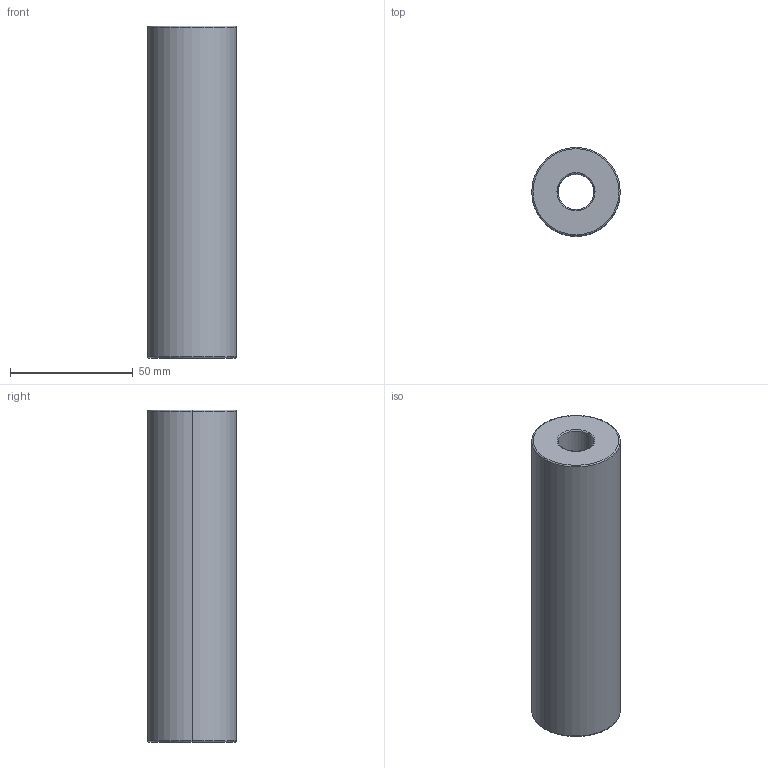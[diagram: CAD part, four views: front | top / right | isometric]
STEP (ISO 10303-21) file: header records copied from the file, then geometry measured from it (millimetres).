
FILE_DESCRIPTION (( 'STEP AP214' ), '1' );
FILE_NAME ('SC16035-R.STEP', '2020-03-23T10:00:02', ( '' ), ( '' ), 'SwSTEP 2.0', 'SolidWorks 2020', '' );
FILE_SCHEMA (( 'AUTOMOTIVE_DESIGN' ));
Length unit declared in the file: millimetre
Products named in the file (1): SC16035-R
Bounding box: 36 x 36 x 135 mm (x, y, z)
Volume: 115103.7 mm3; surface area: 23055.2 mm2
Topology: 1 solids, 1 shells, 14 faces, 28 edges, 16 vertices
Faces by surface type: torus 8, cylinder 4, plane 2
Entity records: 410 total; most frequent: DIRECTION 82, CARTESIAN_POINT 59, ORIENTED_EDGE 56, AXIS2_PLACEMENT_3D 39, EDGE_CURVE 28, CIRCLE 24, EDGE_LOOP 16, VERTEX_POINT 16
